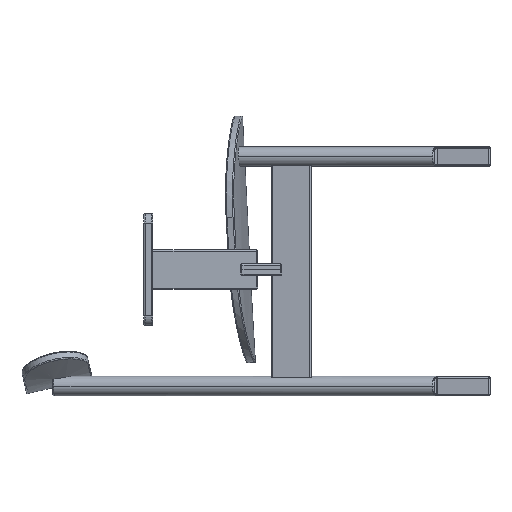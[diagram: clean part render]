
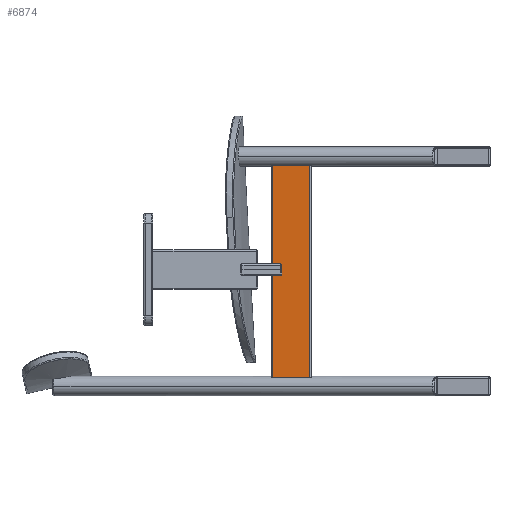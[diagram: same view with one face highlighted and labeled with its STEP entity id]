
A CAD part, left-side view. The second image highlights one B-rep face of the part: STEP entity #6874.
In plain terms, the highlighted planar face has unit normal (-0.996, 0.087, 0).
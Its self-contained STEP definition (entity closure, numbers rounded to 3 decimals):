
#116 = LINE ( 'NONE', #5693, #11211 ) ;
#139 = EDGE_CURVE ( 'NONE', #16193, #242, #10608, .T. ) ;
#242 = VERTEX_POINT ( 'NONE', #1362 ) ;
#276 = LINE ( 'NONE', #4051, #17245 ) ;
#313 = CARTESIAN_POINT ( 'NONE',  ( -152.363, 387.674, 230.55 ) ) ;
#597 = CARTESIAN_POINT ( 'NONE',  ( -152.363, 387.674, 406.436 ) ) ;
#620 = CARTESIAN_POINT ( 'NONE',  ( -152.641, 384.5, 230.55 ) ) ;
#814 = CARTESIAN_POINT ( 'NONE',  ( -158.183, 321.161, 28.064 ) ) ;
#1362 = CARTESIAN_POINT ( 'NONE',  ( -152.641, 384.5, 210.5 ) ) ;
#1683 = ORIENTED_EDGE ( 'NONE', *, *, #10480, .T. ) ;
#1755 = DIRECTION ( 'NONE',  ( 0.087, 0.996, 0. ) ) ;
#2071 = ORIENTED_EDGE ( 'NONE', *, *, #4276, .F. ) ;
#2665 = ORIENTED_EDGE ( 'NONE', *, *, #16551, .F. ) ;
#2668 = DIRECTION ( 'NONE',  ( 0., 0., -1. ) ) ;
#2697 = EDGE_LOOP ( 'NONE', ( #4937, #4296, #14748, #5838, #10175, #9602, #2071, #12824, #1683, #2665, #14871 ) ) ;
#2727 = DIRECTION ( 'NONE',  ( -0.087, -0.996, 0. ) ) ;
#2811 = DIRECTION ( 'NONE',  ( -0.996, 0.087, 0. ) ) ;
#2829 = VECTOR ( 'NONE', #16183, 1000. ) ;
#2962 = VERTEX_POINT ( 'NONE', #313 ) ;
#3179 = LINE ( 'NONE', #14348, #13517 ) ;
#3752 = CARTESIAN_POINT ( 'NONE',  ( -152.641, 384.5, 230.55 ) ) ;
#3831 = VECTOR ( 'NONE', #2668, 1000. ) ;
#4051 = CARTESIAN_POINT ( 'NONE',  ( -134.315, 593.967, 28.064 ) ) ;
#4233 = CARTESIAN_POINT ( 'NONE',  ( -146.953, 449.518, 406.436 ) ) ;
#4276 = EDGE_CURVE ( 'NONE', #6455, #15194, #7399, .T. ) ;
#4296 = ORIENTED_EDGE ( 'NONE', *, *, #15556, .T. ) ;
#4708 = CARTESIAN_POINT ( 'NONE',  ( -158.183, 321.161, -5.001 ) ) ;
#4823 = EDGE_CURVE ( 'NONE', #5923, #2962, #10116, .T. ) ;
#4845 = DIRECTION ( 'NONE',  ( 0., 0., -1. ) ) ;
#4937 = ORIENTED_EDGE ( 'NONE', *, *, #4823, .F. ) ;
#4985 = DIRECTION ( 'NONE',  ( 0., 0., 1. ) ) ;
#5554 = FACE_OUTER_BOUND ( 'NONE', #2697, .T. ) ;
#5590 = DIRECTION ( 'NONE',  ( 0.087, 0.996, 0. ) ) ;
#5693 = CARTESIAN_POINT ( 'NONE',  ( -152.363, 387.674, 210.45 ) ) ;
#5838 = ORIENTED_EDGE ( 'NONE', *, *, #139, .T. ) ;
#5923 = VERTEX_POINT ( 'NONE', #8645 ) ;
#6024 = VECTOR ( 'NONE', #11494, 1000. ) ;
#6068 = CARTESIAN_POINT ( 'NONE',  ( -152.363, 387.674, 28.064 ) ) ;
#6455 = VERTEX_POINT ( 'NONE', #6068 ) ;
#6649 = EDGE_CURVE ( 'NONE', #16620, #15194, #116, .T. ) ;
#6755 = CARTESIAN_POINT ( 'NONE',  ( -152.641, 384.5, 210.45 ) ) ;
#6874 = ADVANCED_FACE ( 'NONE', ( #5554 ), #9772, .T. ) ;
#7043 = VECTOR ( 'NONE', #13448, 1000. ) ;
#7052 = DIRECTION ( 'NONE',  ( -0.087, -0.996, 0. ) ) ;
#7070 = VERTEX_POINT ( 'NONE', #597 ) ;
#7190 = VECTOR ( 'NONE', #11513, 1000. ) ;
#7235 = LINE ( 'NONE', #12819, #3831 ) ;
#7399 = LINE ( 'NONE', #12800, #7190 ) ;
#8016 = AXIS2_PLACEMENT_3D ( 'NONE', #12242, #2811, #2727 ) ;
#8141 = LINE ( 'NONE', #17471, #7043 ) ;
#8645 = CARTESIAN_POINT ( 'NONE',  ( -152.641, 384.5, 230.55 ) ) ;
#8934 = LINE ( 'NONE', #4708, #12943 ) ;
#9602 = ORIENTED_EDGE ( 'NONE', *, *, #6649, .T. ) ;
#9772 = PLANE ( 'NONE',  #8016 ) ;
#10116 = LINE ( 'NONE', #14435, #6024 ) ;
#10175 = ORIENTED_EDGE ( 'NONE', *, *, #11873, .T. ) ;
#10480 = EDGE_CURVE ( 'NONE', #18115, #14931, #8934, .T. ) ;
#10608 = LINE ( 'NONE', #3752, #2829 ) ;
#11211 = VECTOR ( 'NONE', #1755, 1000. ) ;
#11494 = DIRECTION ( 'NONE',  ( 0.087, 0.996, 0. ) ) ;
#11513 = DIRECTION ( 'NONE',  ( 0., 0., 1. ) ) ;
#11873 = EDGE_CURVE ( 'NONE', #242, #16620, #14726, .T. ) ;
#12242 = CARTESIAN_POINT ( 'NONE',  ( -152.363, 387.674, -5.001 ) ) ;
#12379 = VECTOR ( 'NONE', #4845, 1000. ) ;
#12734 = LINE ( 'NONE', #4233, #13205 ) ;
#12800 = CARTESIAN_POINT ( 'NONE',  ( -152.363, 387.674, -5.001 ) ) ;
#12819 = CARTESIAN_POINT ( 'NONE',  ( -152.641, 384.5, 230.55 ) ) ;
#12824 = ORIENTED_EDGE ( 'NONE', *, *, #15122, .F. ) ;
#12943 = VECTOR ( 'NONE', #4985, 1000. ) ;
#13205 = VECTOR ( 'NONE', #7052, 1000. ) ;
#13448 = DIRECTION ( 'NONE',  ( 0., 0., -1. ) ) ;
#13517 = VECTOR ( 'NONE', #14446, 1000. ) ;
#14310 = CARTESIAN_POINT ( 'NONE',  ( -158.183, 321.161, 406.436 ) ) ;
#14348 = CARTESIAN_POINT ( 'NONE',  ( -152.363, 387.674, -5.001 ) ) ;
#14435 = CARTESIAN_POINT ( 'NONE',  ( -152.363, 387.674, 230.55 ) ) ;
#14446 = DIRECTION ( 'NONE',  ( 0., 0., 1. ) ) ;
#14726 = LINE ( 'NONE', #620, #12379 ) ;
#14748 = ORIENTED_EDGE ( 'NONE', *, *, #15148, .T. ) ;
#14871 = ORIENTED_EDGE ( 'NONE', *, *, #17384, .F. ) ;
#14931 = VERTEX_POINT ( 'NONE', #14310 ) ;
#15122 = EDGE_CURVE ( 'NONE', #18115, #6455, #276, .T. ) ;
#15148 = EDGE_CURVE ( 'NONE', #17607, #16193, #7235, .T. ) ;
#15194 = VERTEX_POINT ( 'NONE', #15306 ) ;
#15306 = CARTESIAN_POINT ( 'NONE',  ( -152.363, 387.674, 210.45 ) ) ;
#15556 = EDGE_CURVE ( 'NONE', #5923, #17607, #8141, .T. ) ;
#16183 = DIRECTION ( 'NONE',  ( 0., 0., -1. ) ) ;
#16193 = VERTEX_POINT ( 'NONE', #17993 ) ;
#16551 = EDGE_CURVE ( 'NONE', #7070, #14931, #12734, .T. ) ;
#16620 = VERTEX_POINT ( 'NONE', #6755 ) ;
#17031 = CARTESIAN_POINT ( 'NONE',  ( -152.641, 384.5, 230.5 ) ) ;
#17245 = VECTOR ( 'NONE', #5590, 1000. ) ;
#17384 = EDGE_CURVE ( 'NONE', #2962, #7070, #3179, .T. ) ;
#17471 = CARTESIAN_POINT ( 'NONE',  ( -152.641, 384.5, 230.55 ) ) ;
#17607 = VERTEX_POINT ( 'NONE', #17031 ) ;
#17993 = CARTESIAN_POINT ( 'NONE',  ( -152.641, 384.5, 220.5 ) ) ;
#18115 = VERTEX_POINT ( 'NONE', #814 ) ;
